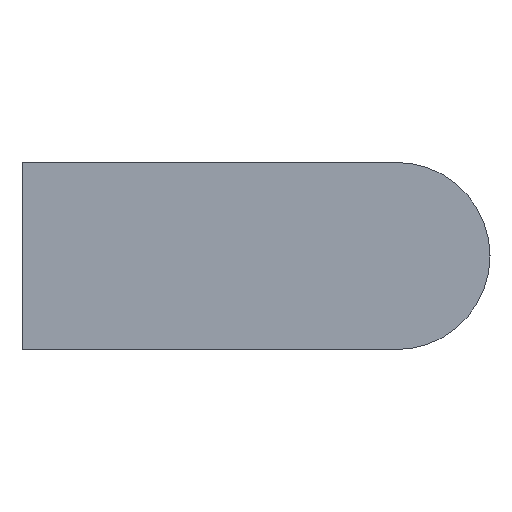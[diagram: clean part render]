
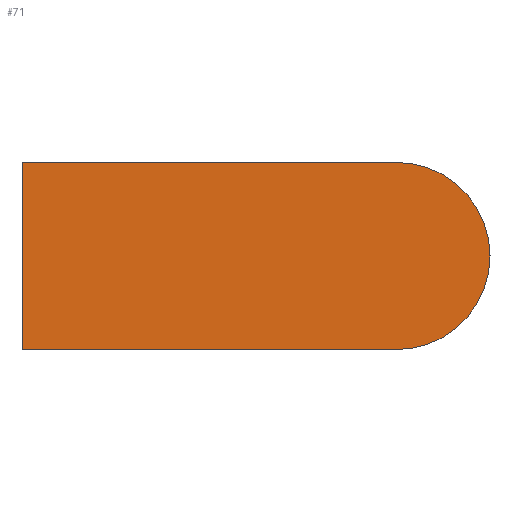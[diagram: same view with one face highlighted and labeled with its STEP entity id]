
A CAD part, left-side view. The second image highlights one B-rep face of the part: STEP entity #71.
In plain terms, the highlighted planar face has unit normal (-1, 0, 0).
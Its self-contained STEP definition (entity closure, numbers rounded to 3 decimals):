
#71 = ADVANCED_FACE( '', ( #148 ), #149, .F. );
#148 = FACE_OUTER_BOUND( '', #225, .T. );
#149 = PLANE( '', #226 );
#225 = EDGE_LOOP( '', ( #352, #353, #354, #355 ) );
#226 = AXIS2_PLACEMENT_3D( '', #356, #357, #358 );
#352 = ORIENTED_EDGE( '', *, *, #458, .F. );
#353 = ORIENTED_EDGE( '', *, *, #427, .F. );
#354 = ORIENTED_EDGE( '', *, *, #441, .F. );
#355 = ORIENTED_EDGE( '', *, *, #436, .F. );
#356 = CARTESIAN_POINT( '', ( -6., -28., 0. ) );
#357 = DIRECTION( '', ( 1., 0., 0. ) );
#358 = DIRECTION( '', ( 0., 0., -1. ) );
#427 = EDGE_CURVE( '', #497, #498, #499, .T. );
#436 = EDGE_CURVE( '', #511, #512, #513, .T. );
#441 = EDGE_CURVE( '', #512, #497, #520, .T. );
#458 = EDGE_CURVE( '', #498, #511, #542, .T. );
#497 = VERTEX_POINT( '', #590 );
#498 = VERTEX_POINT( '', #591 );
#499 = LINE( '', #592, #593 );
#511 = VERTEX_POINT( '', #610 );
#512 = VERTEX_POINT( '', #611 );
#513 = CIRCLE( '', #612, 7. );
#520 = LINE( '', #621, #622 );
#542 = LINE( '', #648, #649 );
#590 = CARTESIAN_POINT( '', ( -6., 0., -7. ) );
#591 = CARTESIAN_POINT( '', ( -6., 0., 7. ) );
#592 = CARTESIAN_POINT( '', ( -6., 0., -7. ) );
#593 = VECTOR( '', #681, 1000. );
#610 = CARTESIAN_POINT( '', ( -6., -28., 7. ) );
#611 = CARTESIAN_POINT( '', ( -6., -28., -7. ) );
#612 = AXIS2_PLACEMENT_3D( '', #690, #691, #692 );
#621 = CARTESIAN_POINT( '', ( -6., -28., -7. ) );
#622 = VECTOR( '', #698, 1000. );
#648 = CARTESIAN_POINT( '', ( -6., 0., 7. ) );
#649 = VECTOR( '', #721, 1000. );
#681 = DIRECTION( '', ( 0., 0., 1. ) );
#690 = CARTESIAN_POINT( '', ( -6., -28., 0. ) );
#691 = DIRECTION( '', ( 1., 0., 0. ) );
#692 = DIRECTION( '', ( 0., 0., -1. ) );
#698 = DIRECTION( '', ( 0., 1., 0. ) );
#721 = DIRECTION( '', ( 0., -1., 0. ) );
